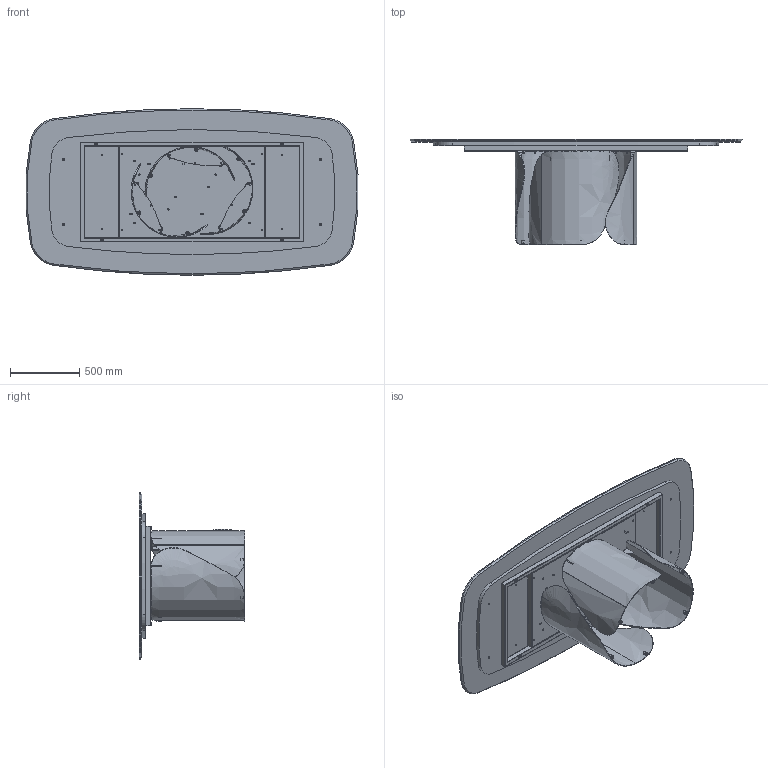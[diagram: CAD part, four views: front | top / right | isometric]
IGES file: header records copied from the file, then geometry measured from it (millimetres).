
Start section: SolidWorks IGES file using analytic representation for surfaces
Global section: file name: Y:\eforma\TECNICO\SOLIDWORKS\E-FORMA\1-TAVOLI\ONDA\02 parts\ON43M.IGS; native system: SolidWorks 2022; preprocessor: SolidWorks 2022; author: eforma.tech; date: 240806.155532; units: millimetre
Bounding box: 2391.9 x 761 x 1200 mm (x, y, z)
Volume: 108697972.2 mm3; surface area: 15274484.8 mm2
Topology: 60 solids, 60 shells, 1780 faces, 4068 edges, 2415 vertices
Faces by surface type: revolution 1100, plane 620, bspline 60
